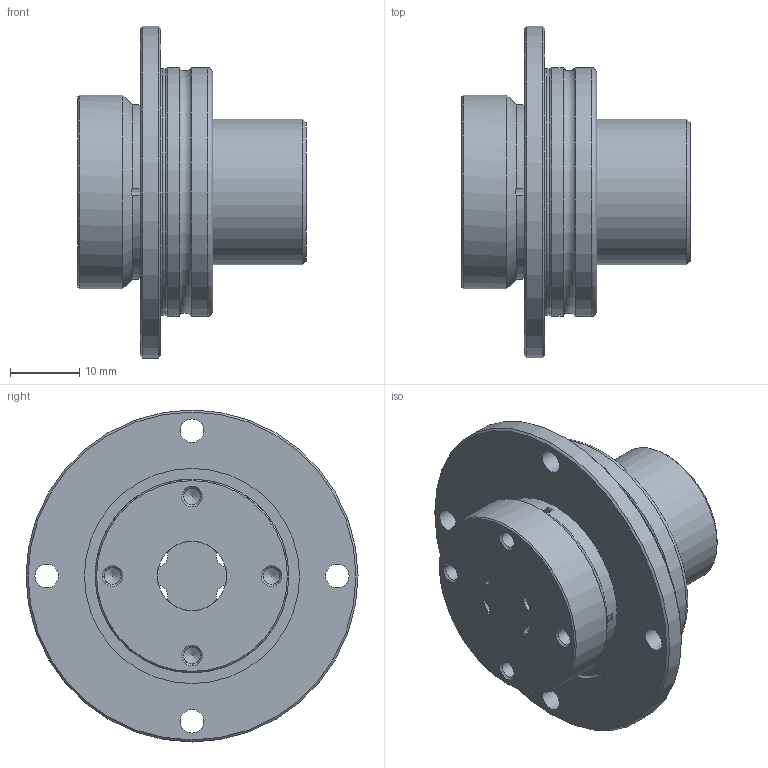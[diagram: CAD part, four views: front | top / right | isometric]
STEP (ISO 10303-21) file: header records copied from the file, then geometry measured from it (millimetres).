
FILE_DESCRIPTION(/* description */ ('STEP AP203'),/* implementation_level */ '2;1');
FILE_NAME(/* name */ 'LTR10A+33L(0_0)',/* time_stamp */ '2024-05-28T07:51:51+02:00',/* author */ ('License CC BY-ND 4.0'),/* organization */ ('CADENAS'),/* preprocessor_version */ 'ST-DEVELOPER v19.3',/* originating_system */ 'PARTsolutions',/* authorisation */ ' ');
FILE_SCHEMA (('CONFIG_CONTROL_DESIGN'));
Length unit declared in the file: millimetre
Products named in the file (3): LTR10A+33L(0,0); LTR 10A33 LTRA Shaft; LTR 10A LTRA ACyl
Assembly tree (3 placements, depth 2):
  LTR10A+33L(0,0)
    LTR 10A33 LTRA Shaft
    LTR 10A LTRA ACyl  x2
Bounding box: 33 x 48 x 48 mm (x, y, z)
Volume: 41338.2 mm3; surface area: 17789.8 mm2
Topology: 3 solids, 3 shells, 104 faces, 282 edges, 182 vertices
Faces by surface type: cylinder 48, cone 30, plane 20, torus 6
Full cylindrical faces by diameter (mm): 1 x2, 2.459 x8, 3.4 x8, 10 x2, 21 x2, 25.2 x2, 25.3 x2, 28 x2, 31.111 x2, 32.4 x2, 35.6 x2, 36 x4, 48 x2
Entity records: 1576 total; most frequent: DIRECTION 276, CARTESIAN_POINT 271, ORIENTED_EDGE 188, AXIS2_PLACEMENT_3D 130, FACE_BOUND 116, EDGE_LOOP 112, EDGE_CURVE 94, VERTEX_POINT 82
